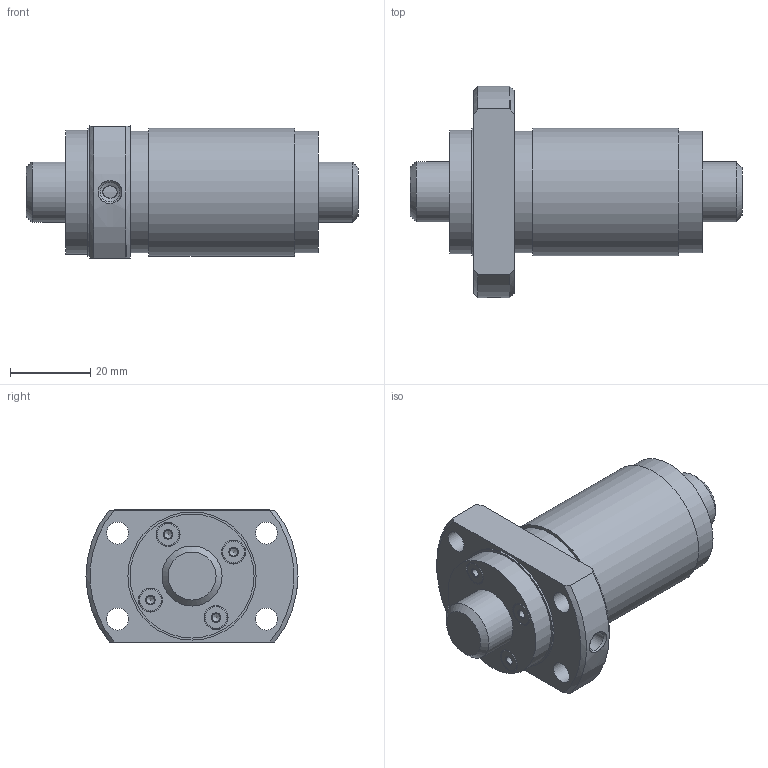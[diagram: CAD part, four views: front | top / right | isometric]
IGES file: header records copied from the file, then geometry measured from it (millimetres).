
Start section: Data from Parasolid IGES Translator 26.0.171, Copyright(c) 2006 Siemens PLM Software. All Rights Reserved.
Global section: file name: WGF1530-3G1+83LC3_N0_13_0_0.igs; native system: By Siemens PLM Incorporated; preprocessor: XPlus GENERIC/IGES 26.0.171; author: Noname; organization: Noname; date: 20250116.062528; units: millimetre
Bounding box: 83 x 53 x 33 mm (x, y, z)
Surface area: 18501.9 mm2 (no closed solid volume)
Topology: 0 solids, 0 shells, 65 faces, 272 edges, 217 vertices
Faces by surface type: revolution 46, extrusion 19
